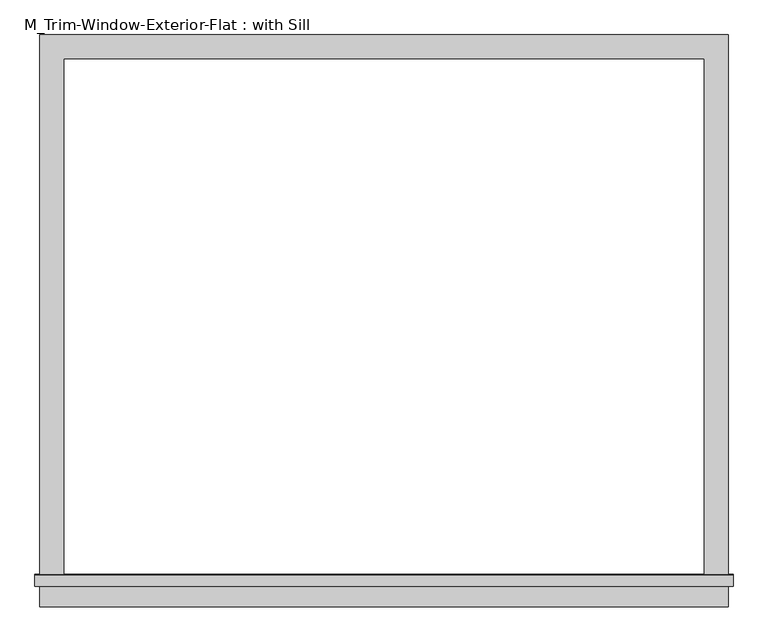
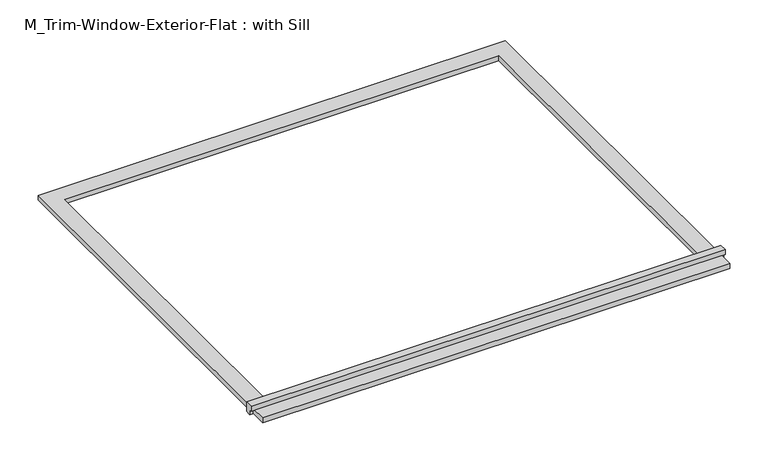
"""IFC4 building model written with IfcOpenShell, lengths in millimetres: proxy geometry, M_Trim-Window-Exterior-Flat : with Sill."""

from ifc_helpers import new_model, si_unit, frame, origin, origin_with_axes, place, context, project, spatial, polyline, outline, extrude, source, transform, mapped, element, save


def m_trim_window_exterior_flat_with_sill_00e127aa(model_context):
    return source(origin(), model_context, "Body", "SweptSolid", [
        extrude(outline(polyline([(860.0, -1310.4323709), (860.0, -1370.4323709), (-860.0, -1370.4323709), (-860.0, -1310.4323709), (860.0, -1310.4323709)])), origin_with_axes(), (0.0, 0.0, 1.0), 19.05),
        extrude(outline(polyline([(-1320.0, 38.1), (-1292.4580645, 38.1), (-1290.0, 19.05), (-1290.0, 0.0), (-1310.4323709, 0.0), (-1310.4323709, 19.05), (-1320.0, 19.05), (-1320.0, 38.1)])), frame((-872.7, 0.0, 0.0), z_axis=(1.0, 0.0, 0.0), x_axis=(0.0, 1.0, 0.0)), (0.0, 0.0, 1.0), 1745.4),
        extrude(outline(polyline([(-860.0, 60.0), (860.0, 60.0), (860.0, -1290.0), (800.0, -1290.0), (800.0, 0.0), (-800.0, 0.0), (-800.0, -1290.0), (-860.0, -1290.0), (-860.0, 60.0)])), origin_with_axes(), (0.0, 0.0, 1.0), 19.05),
    ])


if __name__ == "__main__":
    model = new_model("IFC4")
    model_context = context("Model", 3, world=origin())
    ifc_project = project(units=[si_unit("LENGTHUNIT", "METRE", prefix="MILLI")], contexts=[model_context])
    site = spatial("IfcSite", under=ifc_project)
    building = spatial("IfcBuilding", under=site)
    placement = place(None, origin())
    m_trim_window_exterior_flat_with_sill_shape = m_trim_window_exterior_flat_with_sill_00e127aa(model_context)
    element("IfcBuildingElementProxy", 1, Name="M_Trim-Window-Exterior-Flat : with Sill", ObjectType="M_Trim-Window-Exterior-Flat : with Sill", at=placement, inside=building, context=model_context, shape_type="MappedRepresentation", body=[
        mapped(m_trim_window_exterior_flat_with_sill_shape, transform((0.0, 0.0, 0.0), x_axis=(1.0, 0.0, 0.0), y_axis=(0.0, 1.0, 0.0), z_axis=(0.0, 0.0, 1.0))),
    ])
    save(model, "model.ifc")
